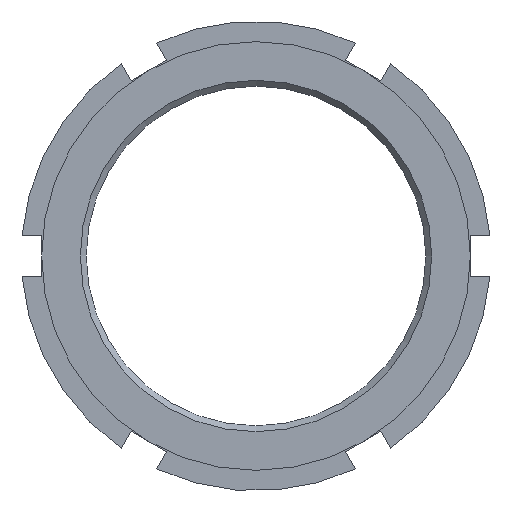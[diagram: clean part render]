
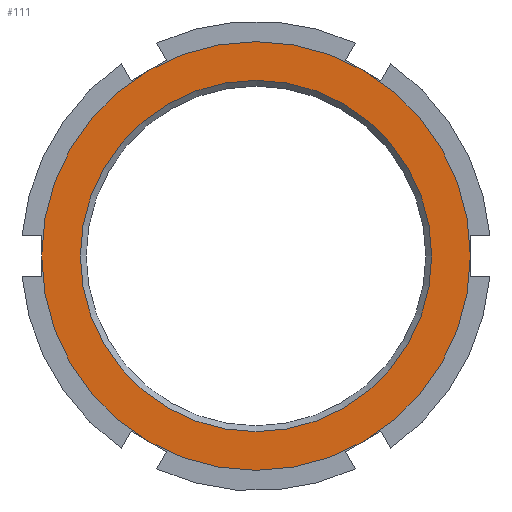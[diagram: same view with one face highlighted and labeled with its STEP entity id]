
A CAD part, left-side view. The second image highlights one B-rep face of the part: STEP entity #111.
In plain terms, the highlighted planar face has unit normal (-1, 0, 0).
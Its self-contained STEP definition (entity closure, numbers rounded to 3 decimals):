
#111 = ADVANCED_FACE( '', ( #203, #204 ), #205, .F. );
#203 = FACE_OUTER_BOUND( '', #305, .T. );
#204 = FACE_BOUND( '', #306, .T. );
#205 = PLANE( '', #307 );
#305 = EDGE_LOOP( '', ( #596 ) );
#306 = EDGE_LOOP( '', ( #597 ) );
#307 = AXIS2_PLACEMENT_3D( '', #598, #599, #600 );
#596 = ORIENTED_EDGE( '', *, *, #753, .F. );
#597 = ORIENTED_EDGE( '', *, *, #729, .T. );
#598 = CARTESIAN_POINT( '', ( 0., 0., 0. ) );
#599 = DIRECTION( '', ( 1., 0., 0. ) );
#600 = DIRECTION( '', ( 0., 0., -1. ) );
#729 = EDGE_CURVE( '', #884, #884, #885, .T. );
#753 = EDGE_CURVE( '', #916, #916, #917, .T. );
#884 = VERTEX_POINT( '', #1145 );
#885 = CIRCLE( '', #1146, 29.918 );
#916 = VERTEX_POINT( '', #1188 );
#917 = CIRCLE( '', #1189, 36.5 );
#1145 = CARTESIAN_POINT( '', ( 0., 0., -29.918 ) );
#1146 = AXIS2_PLACEMENT_3D( '', #1310, #1311, #1312 );
#1188 = CARTESIAN_POINT( '', ( 0., 0., -36.5 ) );
#1189 = AXIS2_PLACEMENT_3D( '', #1369, #1370, #1371 );
#1310 = CARTESIAN_POINT( '', ( 0., 0., 0. ) );
#1311 = DIRECTION( '', ( 1., 0., 0. ) );
#1312 = DIRECTION( '', ( 0., 0., -1. ) );
#1369 = CARTESIAN_POINT( '', ( 0., 0., 0. ) );
#1370 = DIRECTION( '', ( 1., 0., 0. ) );
#1371 = DIRECTION( '', ( 0., 0., -1. ) );
